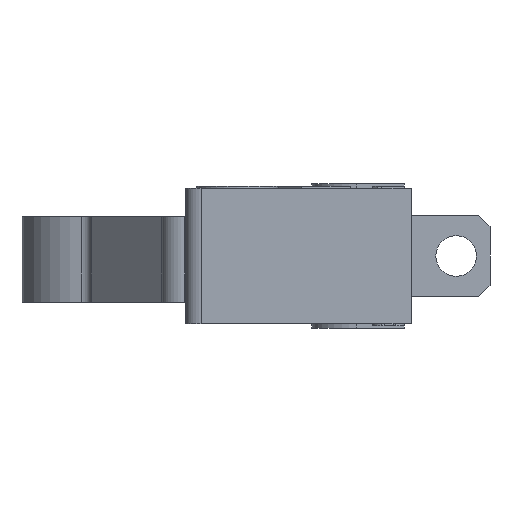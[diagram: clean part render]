
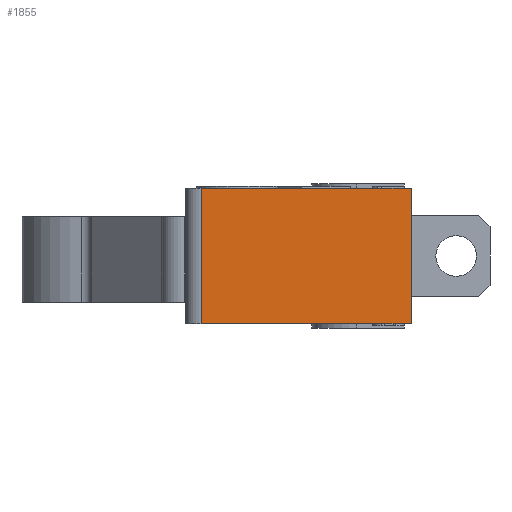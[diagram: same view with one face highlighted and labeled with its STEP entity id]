
A CAD part, left-side view. The second image highlights one B-rep face of the part: STEP entity #1855.
In plain terms, the highlighted planar face has unit normal (-1, 0, 0).
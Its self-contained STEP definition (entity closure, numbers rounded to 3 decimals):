
#1240=CARTESIAN_POINT('',(-9.95,-5.,3.6));
#1241=VERTEX_POINT('',#1240);
#1248=CARTESIAN_POINT('',(-9.95,-5.0,-2.4));
#1249=VERTEX_POINT('',#1248);
#1250=CARTESIAN_POINT('',(-9.95,-5.0,-2.4));
#1251=DIRECTION('',(0.0,0.0,1.0));
#1252=VECTOR('',#1251,6.0);
#1253=LINE('',#1250,#1252);
#1254=EDGE_CURVE('',#1249,#1241,#1253,.T.);
#1297=CARTESIAN_POINT('',(-9.95,4.3,-2.4));
#1298=VERTEX_POINT('',#1297);
#1299=CARTESIAN_POINT('',(-9.95,4.3,-2.4));
#1300=DIRECTION('',(0.0,-1.0,0.0));
#1301=VECTOR('',#1300,9.3);
#1302=LINE('',#1299,#1301);
#1303=EDGE_CURVE('',#1298,#1249,#1302,.T.);
#1832=CARTESIAN_POINT('',(-9.95,-5.0,-2.4));
#1833=DIRECTION('',(-1.0,0.0,0.0));
#1834=DIRECTION('',(0.0,0.0,1.0));
#1835=AXIS2_PLACEMENT_3D('',#1832,#1833,#1834);
#1836=PLANE('',#1835);
#1837=CARTESIAN_POINT('',(-9.95,4.3,3.6));
#1838=VERTEX_POINT('',#1837);
#1839=CARTESIAN_POINT('',(-9.95,4.3,-2.4));
#1840=DIRECTION('',(0.0,0.0,1.0));
#1841=VECTOR('',#1840,6.0);
#1842=LINE('',#1839,#1841);
#1843=EDGE_CURVE('',#1298,#1838,#1842,.T.);
#1844=ORIENTED_EDGE('',*,*,#1843,.F.);
#1845=ORIENTED_EDGE('',*,*,#1303,.T.);
#1846=ORIENTED_EDGE('',*,*,#1254,.T.);
#1847=CARTESIAN_POINT('',(-9.95,-5.,3.6));
#1848=DIRECTION('',(0.0,1.0,0.0));
#1849=VECTOR('',#1848,9.3);
#1850=LINE('',#1847,#1849);
#1851=EDGE_CURVE('',#1241,#1838,#1850,.T.);
#1852=ORIENTED_EDGE('',*,*,#1851,.T.);
#1853=EDGE_LOOP('',(#1844,#1845,#1846,#1852));
#1854=FACE_OUTER_BOUND('',#1853,.T.);
#1855=ADVANCED_FACE('',(#1854),#1836,.T.);
